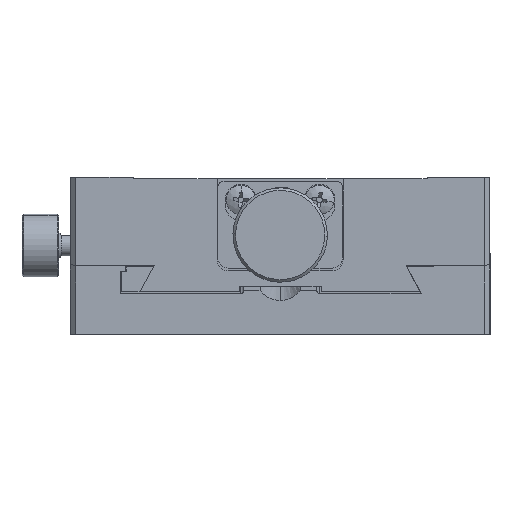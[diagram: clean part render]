
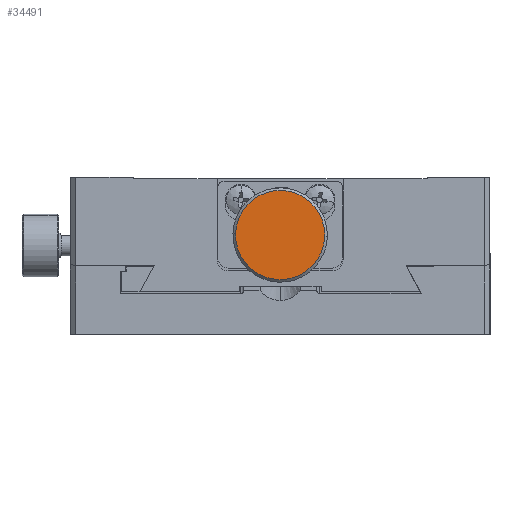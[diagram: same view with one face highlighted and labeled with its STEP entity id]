
A CAD part, left-side view. The second image highlights one B-rep face of the part: STEP entity #34491.
In plain terms, the highlighted planar face has unit normal (-1, 0, 0).
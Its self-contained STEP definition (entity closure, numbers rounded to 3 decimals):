
#5125 = CARTESIAN_POINT ( 'NONE',  ( -65.5, 0., 119. ) ) ;
#5357 = CARTESIAN_POINT ( 'NONE',  ( -65.5, 8.497, 119.239 ) ) ;
#11726 = ORIENTED_EDGE ( 'NONE', *, *, #39603, .T. ) ;
#12173 = VERTEX_POINT ( 'NONE', #39896 ) ;
#19483 = DIRECTION ( 'NONE',  ( -1., 0., 0. ) ) ;
#22384 = PLANE ( 'NONE',  #35694 ) ;
#24500 = ORIENTED_EDGE ( 'NONE', *, *, #58102, .T. ) ;
#26559 = CARTESIAN_POINT ( 'NONE',  ( -65.5, 0., 119. ) ) ;
#34491 = ADVANCED_FACE ( 'NONE', ( #45070 ), #22384, .F. ) ;
#35694 = AXIS2_PLACEMENT_3D ( 'NONE', #26559, #48657, #54029 ) ;
#38579 = EDGE_LOOP ( 'NONE', ( #11726, #24500 ) ) ;
#39603 = EDGE_CURVE ( 'NONE', #52729, #12173, #54122, .T. ) ;
#39896 = CARTESIAN_POINT ( 'NONE',  ( -65.5, -8.497, 118.761 ) ) ;
#41286 = DIRECTION ( 'NONE',  ( 0., 1., 0.028 ) ) ;
#44132 = DIRECTION ( 'NONE',  ( -1., 0., 0. ) ) ;
#44923 = AXIS2_PLACEMENT_3D ( 'NONE', #5125, #19483, #41286 ) ;
#45070 = FACE_OUTER_BOUND ( 'NONE', #38579, .T. ) ;
#48621 = DIRECTION ( 'NONE',  ( 0., 1., 0.028 ) ) ;
#48657 = DIRECTION ( 'NONE',  ( 1., 0., 0. ) ) ;
#52729 = VERTEX_POINT ( 'NONE', #5357 ) ;
#54029 = DIRECTION ( 'NONE',  ( 0., 1., 0.028 ) ) ;
#54122 = CIRCLE ( 'NONE', #58902, 8.5 ) ;
#57328 = CIRCLE ( 'NONE', #44923, 8.5 ) ;
#57594 = CARTESIAN_POINT ( 'NONE',  ( -65.5, 0., 119. ) ) ;
#58102 = EDGE_CURVE ( 'NONE', #12173, #52729, #57328, .T. ) ;
#58902 = AXIS2_PLACEMENT_3D ( 'NONE', #57594, #44132, #48621 ) ;
